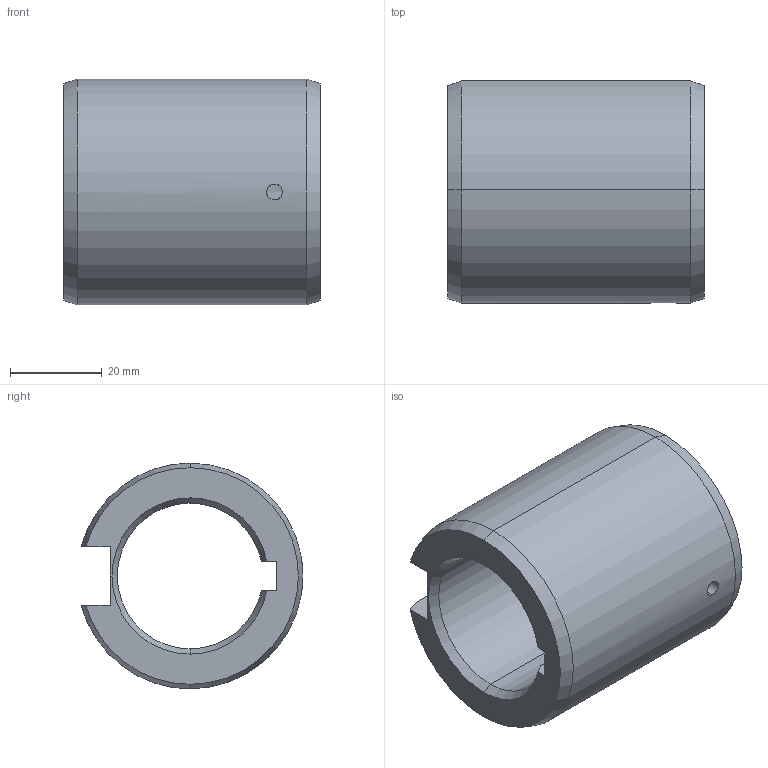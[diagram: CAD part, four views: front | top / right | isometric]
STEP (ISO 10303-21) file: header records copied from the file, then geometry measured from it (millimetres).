
FILE_DESCRIPTION (( 'STEP AP203' ), '1' );
FILE_NAME ('KBSH066P20.STEP', '2023-08-01T05:22:19', ( '' ), ( '' ), 'SwSTEP 2.0', 'SolidWorks 2017', '' );
FILE_SCHEMA (( 'CONFIG_CONTROL_DESIGN' ));
Length unit declared in the file: millimetre
Products named in the file (1): KBSH066P20
Bounding box: 56 x 48.38 x 49.21 mm (x, y, z)
Volume: 55479.1 mm3; surface area: 16951.9 mm2
Topology: 1 solids, 1 shells, 28 faces, 70 edges, 44 vertices
Faces by surface type: cone 12, cylinder 8, plane 8
Entity records: 979 total; most frequent: CARTESIAN_POINT 221, DIRECTION 144, ORIENTED_EDGE 140, EDGE_CURVE 70, AXIS2_PLACEMENT_3D 55, VERTEX_POINT 44, VECTOR 34, LINE 34
